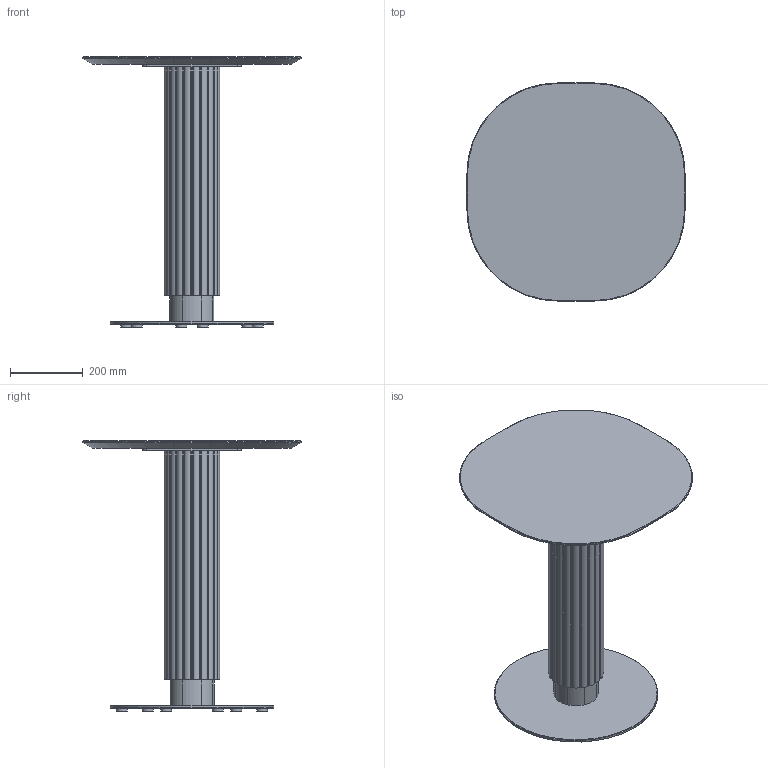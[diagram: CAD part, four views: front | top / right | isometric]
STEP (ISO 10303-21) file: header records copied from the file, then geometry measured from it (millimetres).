
FILE_DESCRIPTION( ('This file contains a STEP AP42 implementation' ,'as created by ZW3D STEP Interface translator.') ,'2;1' );
FILE_NAME( 'Godron - B_Rond - F2 - M5 - 600 x 600 x 750.stp' ,'24 912.12 541', (''), ('ZWCAD Software Co.'), 'Version 1.0', 'ZW3D to STEP translator', '' );
FILE_SCHEMA(('AUTOMOTIVE_DESIGN { 1 0 10303 214 1 1 1 1 }'));
Length unit declared in the file: millimetre
Products named in the file (15): 0; PIED BISTROT PARAMETRIQUE_; SOCLE ACIER C Ø450 V.02_; SCL-D450-02_; PLA-R30A-01_; PLA-R30A-01; CROIX ACIER 370 V.02_; CRX-X370-02_; COLONNE ACIER Ø48.5 V.02_; TUB-D048-02_; PLA-R48A-01_; Colonne GODRON H700_; WUERTH 0276063020 Euro-screw 6.3x2 Verzinkt_; PLATEAU BISTROT PARAMETRIQUE_; insert_m6_13_
Assembly tree (25 placements, depth 3):
  0
  PIED BISTROT PARAMETRIQUE_
    SOCLE ACIER C Ø450 V.02_
      SCL-D450-02_
      PLA-R30A-01_
      PLA-R30A-01  x5
    CROIX ACIER 370 V.02_
      CRX-X370-02_
    COLONNE ACIER Ø48.5 V.02_
      TUB-D048-02_
      PLA-R48A-01_  x2
    Colonne GODRON H700_
    WUERTH 0276063020 Euro-screw 6.3x2 Verzinkt_
    PLATEAU BISTROT PARAMETRIQUE_
      insert_m6_13_  x8
Bounding box: 600 x 600 x 744 mm (x, y, z)
Volume: 18091678.1 mm3; surface area: 2378004.5 mm2
Topology: 29 solids, 29 shells, 656 faces, 1625 edges, 1042 vertices
Faces by surface type: plane 291, cylinder 193, bspline 124, cone 47, torus 1
Full cylindrical faces by diameter (mm): 4.88 x1, 6 x8, 6.3 x1, 8 x47, 12 x2, 14 x2, 30 x6, 44.5 x3, 48.5 x1, 450 x1
Entity records: 16277 total; most frequent: CARTESIAN_POINT 4113, ORIENTED_EDGE 2240, DIRECTION 2232, EDGE_CURVE 1120, AXIS2_PLACEMENT_3D 793, VERTEX_POINT 728, VECTOR 646, LINE 646
